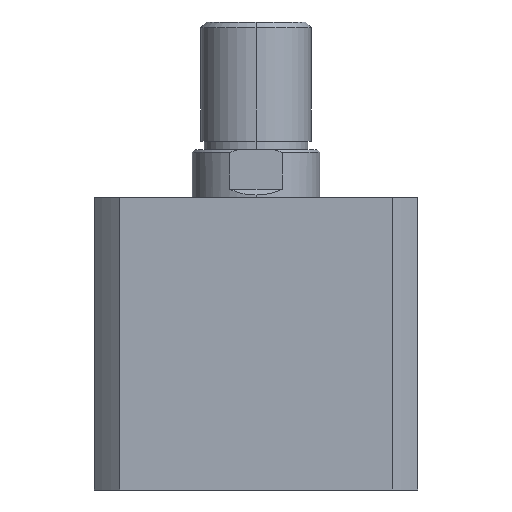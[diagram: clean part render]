
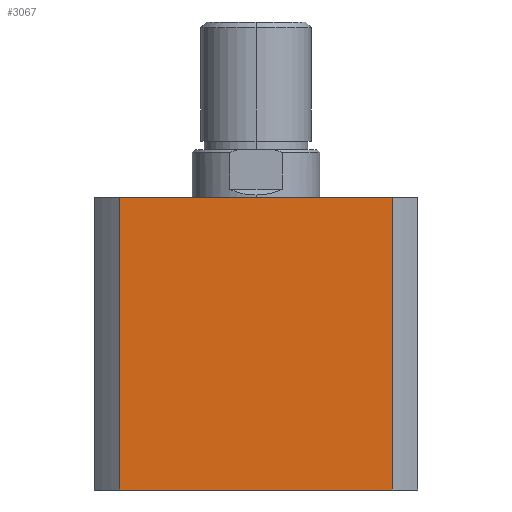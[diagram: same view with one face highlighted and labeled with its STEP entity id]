
A CAD part, left-side view. The second image highlights one B-rep face of the part: STEP entity #3067.
In plain terms, the highlighted planar face has unit normal (-1, 0, 0).
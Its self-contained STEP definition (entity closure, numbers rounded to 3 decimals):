
#26 = DIRECTION ( 'NONE',  ( 0., 0., -1. ) ) ;
#27 = DIRECTION ( 'NONE',  ( 1., 0., 0. ) ) ;
#30 = PLANE ( 'NONE',  #1165 ) ;
#35 = CARTESIAN_POINT ( 'NONE',  ( -57., 0., 103. ) ) ;
#228 = EDGE_LOOP ( 'NONE', ( #2004, #2002, #2001, #1999 ) ) ;
#295 = CARTESIAN_POINT ( 'NONE',  ( -57., -47.971, 0. ) ) ;
#483 = DIRECTION ( 'NONE',  ( 0., 0., -1. ) ) ;
#486 = CARTESIAN_POINT ( 'NONE',  ( -57., -47.971, 103. ) ) ;
#1165 = AXIS2_PLACEMENT_3D ( 'NONE', #35, #27, #26 ) ;
#1470 = EDGE_CURVE ( 'NONE', #2774, #2128, #3714, .T. ) ;
#1999 = ORIENTED_EDGE ( 'NONE', *, *, #2853, .T. ) ;
#2001 = ORIENTED_EDGE ( 'NONE', *, *, #2890, .F. ) ;
#2002 = ORIENTED_EDGE ( 'NONE', *, *, #1470, .F. ) ;
#2004 = ORIENTED_EDGE ( 'NONE', *, *, #2875, .T. ) ;
#2128 = VERTEX_POINT ( 'NONE', #295 ) ;
#2774 = VERTEX_POINT ( 'NONE', #4376 ) ;
#2775 = VERTEX_POINT ( 'NONE', #4375 ) ;
#2825 = VERTEX_POINT ( 'NONE', #4357 ) ;
#2853 = EDGE_CURVE ( 'NONE', #2775, #2825, #4588, .T. ) ;
#2875 = EDGE_CURVE ( 'NONE', #2825, #2128, #4621, .T. ) ;
#2890 = EDGE_CURVE ( 'NONE', #2775, #2774, #4643, .T. ) ;
#3067 = ADVANCED_FACE ( 'NONE', ( #4896 ), #30, .F. ) ;
#3714 = LINE ( 'NONE', #486, #3717 ) ;
#3717 = VECTOR ( 'NONE', #483, 1000. ) ;
#3830 = DIRECTION ( 'NONE',  ( 0., -1., 0. ) ) ;
#3859 = CARTESIAN_POINT ( 'NONE',  ( -57., 0., 0. ) ) ;
#3972 = CARTESIAN_POINT ( 'NONE',  ( -57., 0., 103. ) ) ;
#3976 = DIRECTION ( 'NONE',  ( 0., -1., 0. ) ) ;
#4163 = DIRECTION ( 'NONE',  ( 0., 0., -1. ) ) ;
#4169 = CARTESIAN_POINT ( 'NONE',  ( -57., 47.971, 103. ) ) ;
#4357 = CARTESIAN_POINT ( 'NONE',  ( -57., 47.971, 0. ) ) ;
#4375 = CARTESIAN_POINT ( 'NONE',  ( -57., 47.971, 103. ) ) ;
#4376 = CARTESIAN_POINT ( 'NONE',  ( -57., -47.971, 103. ) ) ;
#4588 = LINE ( 'NONE', #4169, #4594 ) ;
#4594 = VECTOR ( 'NONE', #4163, 1000. ) ;
#4621 = LINE ( 'NONE', #3859, #4626 ) ;
#4626 = VECTOR ( 'NONE', #3830, 1000. ) ;
#4643 = LINE ( 'NONE', #3972, #4649 ) ;
#4649 = VECTOR ( 'NONE', #3976, 1000. ) ;
#4896 = FACE_OUTER_BOUND ( 'NONE', #228, .T. ) ;
